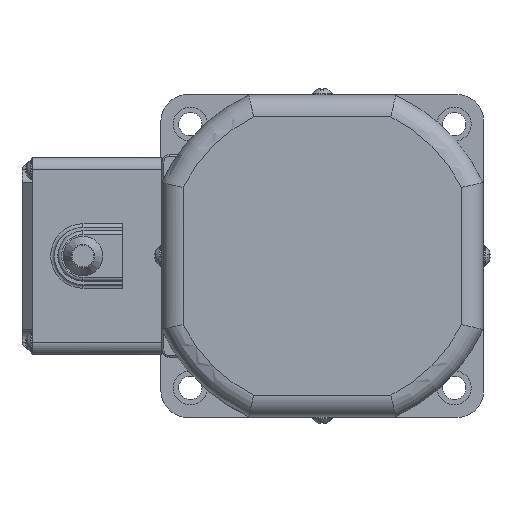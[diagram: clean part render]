
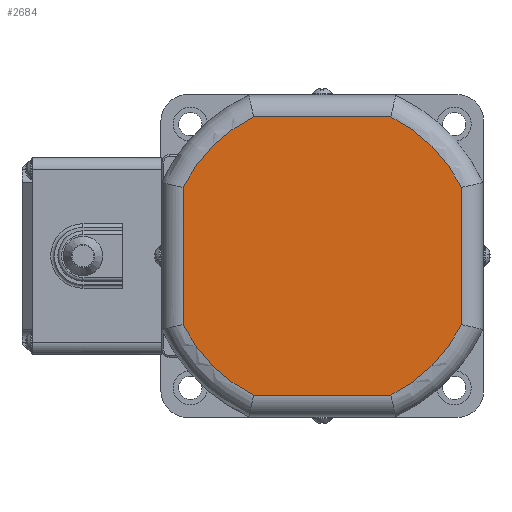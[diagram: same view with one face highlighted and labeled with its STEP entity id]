
A CAD part, left-side view. The second image highlights one B-rep face of the part: STEP entity #2684.
In plain terms, the highlighted planar face has unit normal (-1, 0, 0).
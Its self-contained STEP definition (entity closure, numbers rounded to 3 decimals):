
#2609=CARTESIAN_POINT('',(-17.8,0.,0.));
#2610=DIRECTION('',(1.0,0.0,0.0));
#2611=DIRECTION('',(0.0,0.0,-1.0));
#2612=AXIS2_PLACEMENT_3D('',#2609,#2610,#2611);
#2613=PLANE('',#2612);
#2614=CARTESIAN_POINT('',(-17.8,38.8,-19.108));
#2615=VERTEX_POINT('',#2614);
#2616=CARTESIAN_POINT('',(-17.8,38.8,19.108));
#2617=VERTEX_POINT('',#2616);
#2618=CARTESIAN_POINT('',(-17.8,38.8,-19.108));
#2619=DIRECTION('',(0.0,0.0,1.0));
#2620=VECTOR('',#2619,38.216);
#2621=LINE('',#2618,#2620);
#2622=EDGE_CURVE('',#2615,#2617,#2621,.T.);
#2623=ORIENTED_EDGE('',*,*,#2622,.F.);
#2624=CARTESIAN_POINT('',(-17.8,19.108,-38.8));
#2625=VERTEX_POINT('',#2624);
#2626=CARTESIAN_POINT('',(-17.8,0.,0.));
#2627=DIRECTION('',(1.,0.0,0.0));
#2628=DIRECTION('',(0.0,0.707,-0.707));
#2629=AXIS2_PLACEMENT_3D('',#2626,#2627,#2628);
#2630=CIRCLE('',#2629,43.25);
#2631=EDGE_CURVE('',#2625,#2615,#2630,.T.);
#2632=ORIENTED_EDGE('',*,*,#2631,.F.);
#2633=CARTESIAN_POINT('',(-17.8,-19.108,-38.8));
#2634=VERTEX_POINT('',#2633);
#2635=CARTESIAN_POINT('',(-17.8,-19.108,-38.8));
#2636=DIRECTION('',(0.0,1.0,0.0));
#2637=VECTOR('',#2636,38.216);
#2638=LINE('',#2635,#2637);
#2639=EDGE_CURVE('',#2634,#2625,#2638,.T.);
#2640=ORIENTED_EDGE('',*,*,#2639,.F.);
#2641=CARTESIAN_POINT('',(-17.8,-38.8,-19.108));
#2642=VERTEX_POINT('',#2641);
#2643=CARTESIAN_POINT('',(-17.8,0.,0.));
#2644=DIRECTION('',(1.0,0.0,0.0));
#2645=DIRECTION('',(0.0,-0.707,-0.707));
#2646=AXIS2_PLACEMENT_3D('',#2643,#2644,#2645);
#2647=CIRCLE('',#2646,43.25);
#2648=EDGE_CURVE('',#2642,#2634,#2647,.T.);
#2649=ORIENTED_EDGE('',*,*,#2648,.F.);
#2650=CARTESIAN_POINT('',(-17.8,-38.8,19.108));
#2651=VERTEX_POINT('',#2650);
#2652=CARTESIAN_POINT('',(-17.8,-38.8,19.108));
#2653=DIRECTION('',(0.0,0.0,-1.0));
#2654=VECTOR('',#2653,38.216);
#2655=LINE('',#2652,#2654);
#2656=EDGE_CURVE('',#2651,#2642,#2655,.T.);
#2657=ORIENTED_EDGE('',*,*,#2656,.F.);
#2658=CARTESIAN_POINT('',(-17.8,-19.108,38.8));
#2659=VERTEX_POINT('',#2658);
#2660=CARTESIAN_POINT('',(-17.8,0.,0.));
#2661=DIRECTION('',(1.0,0.0,0.0));
#2662=DIRECTION('',(0.0,-0.707,0.707));
#2663=AXIS2_PLACEMENT_3D('',#2660,#2661,#2662);
#2664=CIRCLE('',#2663,43.25);
#2665=EDGE_CURVE('',#2659,#2651,#2664,.T.);
#2666=ORIENTED_EDGE('',*,*,#2665,.F.);
#2667=CARTESIAN_POINT('',(-17.8,19.108,38.8));
#2668=VERTEX_POINT('',#2667);
#2669=CARTESIAN_POINT('',(-17.8,19.108,38.8));
#2670=DIRECTION('',(0.0,-1.0,0.0));
#2671=VECTOR('',#2670,38.216);
#2672=LINE('',#2669,#2671);
#2673=EDGE_CURVE('',#2668,#2659,#2672,.T.);
#2674=ORIENTED_EDGE('',*,*,#2673,.F.);
#2675=CARTESIAN_POINT('',(-17.8,0.,0.));
#2676=DIRECTION('',(1.0,0.0,0.0));
#2677=DIRECTION('',(0.0,0.707,0.707));
#2678=AXIS2_PLACEMENT_3D('',#2675,#2676,#2677);
#2679=CIRCLE('',#2678,43.25);
#2680=EDGE_CURVE('',#2617,#2668,#2679,.T.);
#2681=ORIENTED_EDGE('',*,*,#2680,.F.);
#2682=EDGE_LOOP('',(#2623,#2632,#2640,#2649,#2657,#2666,#2674,#2681));
#2683=FACE_OUTER_BOUND('',#2682,.T.);
#2684=ADVANCED_FACE('',(#2683),#2613,.F.);
